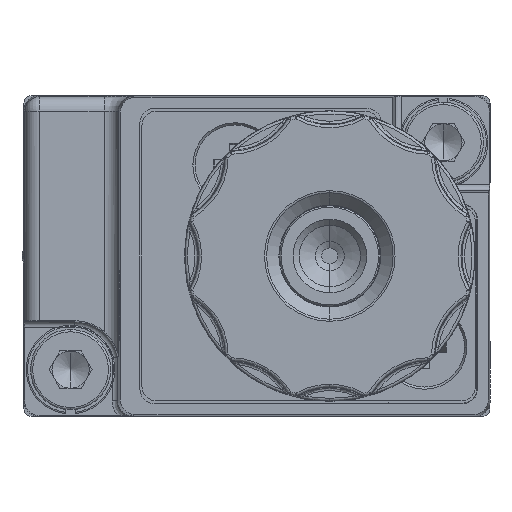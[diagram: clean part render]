
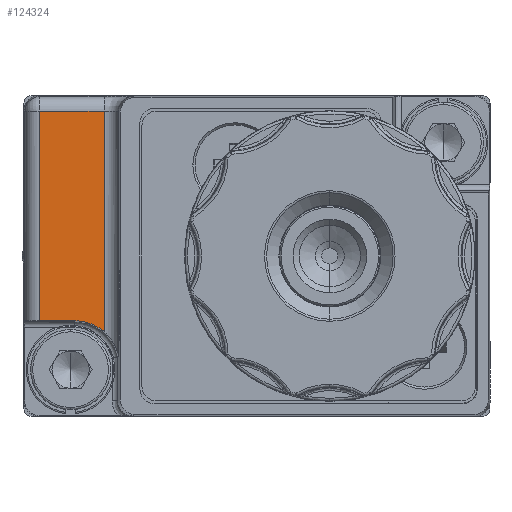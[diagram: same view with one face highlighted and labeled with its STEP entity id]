
A CAD part, left-side view. The second image highlights one B-rep face of the part: STEP entity #124324.
In plain terms, the highlighted planar face has unit normal (-1, 0, 0).
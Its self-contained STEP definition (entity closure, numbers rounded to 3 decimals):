
#3313 = VERTEX_POINT ( 'NONE', #20185 ) ;
#3337 = VERTEX_POINT ( 'NONE', #18656 ) ;
#3363 = VERTEX_POINT ( 'NONE', #11823 ) ;
#3380 = VERTEX_POINT ( 'NONE', #11908 ) ;
#3381 = VERTEX_POINT ( 'NONE', #12058 ) ;
#11823 = CARTESIAN_POINT ( 'NONE',  ( -42.1, 13.739, 9.939 ) ) ;
#11908 = CARTESIAN_POINT ( 'NONE',  ( -42.1, 13.739, -4.447 ) ) ;
#12030 = LINE ( 'NONE', #128666, #12039 ) ;
#12039 = VECTOR ( 'NONE', #128675, 1000. ) ;
#12058 = CARTESIAN_POINT ( 'NONE',  ( -42.1, 9.291, 9.939 ) ) ;
#12154 = LINE ( 'NONE', #37626, #12158 ) ;
#12155 = LINE ( 'NONE', #37624, #12156 ) ;
#12156 = VECTOR ( 'NONE', #37625, 1000. ) ;
#12157 = CIRCLE ( 'NONE', #47502, 3.053 ) ;
#12158 = VECTOR ( 'NONE', #37627, 1000. ) ;
#12159 = LINE ( 'NONE', #37605, #12161 ) ;
#12161 = VECTOR ( 'NONE', #37615, 1000. ) ;
#15074 = ORIENTED_EDGE ( 'NONE', *, *, #131389, .T. ) ;
#15410 = ORIENTED_EDGE ( 'NONE', *, *, #131500, .T. ) ;
#15689 = ORIENTED_EDGE ( 'NONE', *, *, #131503, .T. ) ;
#15696 = ORIENTED_EDGE ( 'NONE', *, *, #131505, .T. ) ;
#16496 = ORIENTED_EDGE ( 'NONE', *, *, #131501, .T. ) ;
#18656 = CARTESIAN_POINT ( 'NONE',  ( -42.1, 9.291, -5.201 ) ) ;
#20185 = CARTESIAN_POINT ( 'NONE',  ( -42.1, 11.3, -4.447 ) ) ;
#37605 = CARTESIAN_POINT ( 'NONE',  ( -42.1, 9.291, -11. ) ) ;
#37615 = DIRECTION ( 'NONE',  ( 0., 0., 1. ) ) ;
#37624 = CARTESIAN_POINT ( 'NONE',  ( -42.1, 8.3, 9.939 ) ) ;
#37625 = DIRECTION ( 'NONE',  ( 0., 1., 0. ) ) ;
#37626 = CARTESIAN_POINT ( 'NONE',  ( -42.1, 0., -4.447 ) ) ;
#37627 = DIRECTION ( 'NONE',  ( 0., -1., 0. ) ) ;
#37630 = CARTESIAN_POINT ( 'NONE',  ( -42.1, 11.3, -7.5 ) ) ;
#37631 = DIRECTION ( 'NONE',  ( 1., 0., 0. ) ) ;
#37632 = DIRECTION ( 'NONE',  ( 0., 0., 1. ) ) ;
#43311 = EDGE_LOOP ( 'NONE', ( #15410, #15074, #16496, #15689, #15696 ) ) ;
#47502 = AXIS2_PLACEMENT_3D ( 'NONE', #37630, #37631, #37632 ) ;
#73239 = AXIS2_PLACEMENT_3D ( 'NONE', #96461, #96462, #96463 ) ;
#81919 = FACE_OUTER_BOUND ( 'NONE', #43311, .T. ) ;
#96446 = PLANE ( 'NONE',  #73239 ) ;
#96461 = CARTESIAN_POINT ( 'NONE',  ( -42.1, 8.3, -11. ) ) ;
#96462 = DIRECTION ( 'NONE',  ( -1., 0., 0. ) ) ;
#96463 = DIRECTION ( 'NONE',  ( 0., 0., 1. ) ) ;
#124324 = ADVANCED_FACE ( 'NONE', ( #81919 ), #96446, .T. ) ;
#128666 = CARTESIAN_POINT ( 'NONE',  ( -42.1, 13.739, -11. ) ) ;
#128675 = DIRECTION ( 'NONE',  ( 0., 0., -1. ) ) ;
#131389 = EDGE_CURVE ( 'NONE', #3363, #3380, #12030, .T. ) ;
#131500 = EDGE_CURVE ( 'NONE', #3381, #3363, #12155, .T. ) ;
#131501 = EDGE_CURVE ( 'NONE', #3380, #3313, #12154, .T. ) ;
#131503 = EDGE_CURVE ( 'NONE', #3313, #3337, #12157, .T. ) ;
#131505 = EDGE_CURVE ( 'NONE', #3337, #3381, #12159, .T. ) ;
